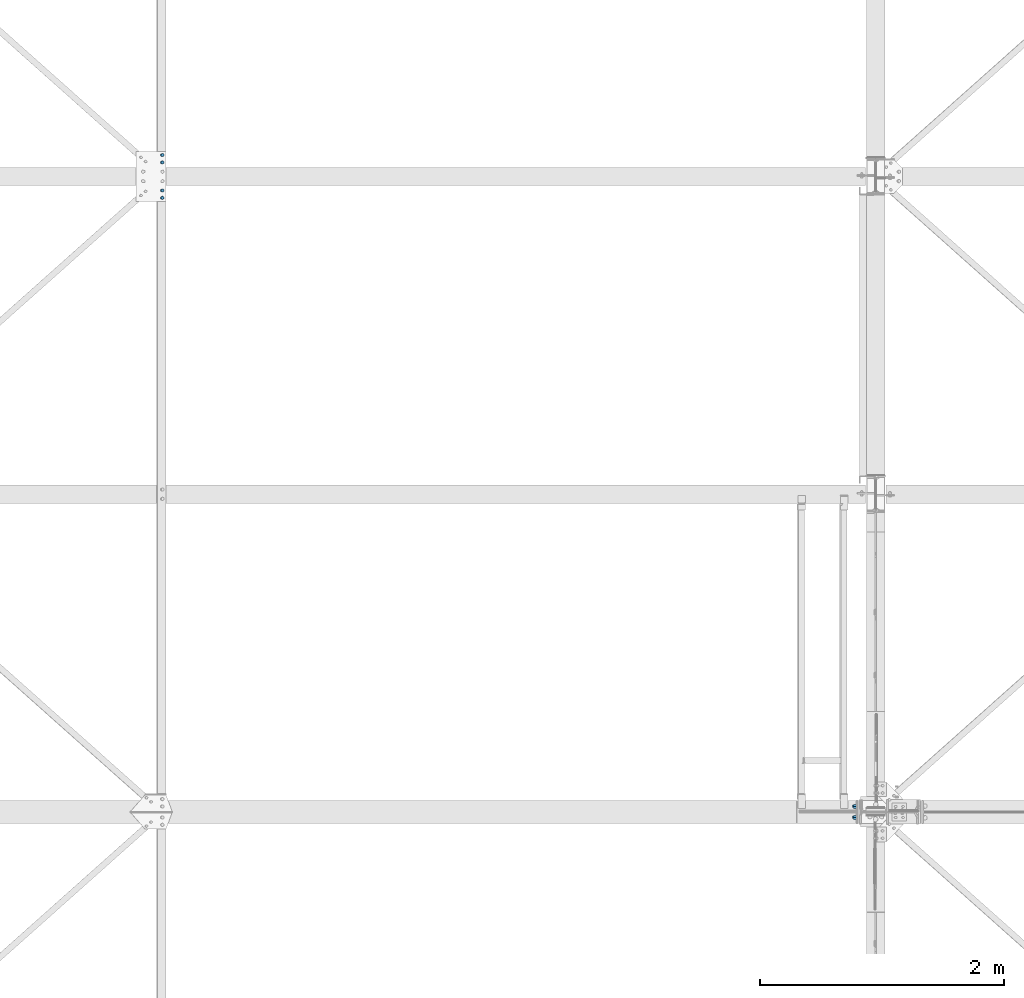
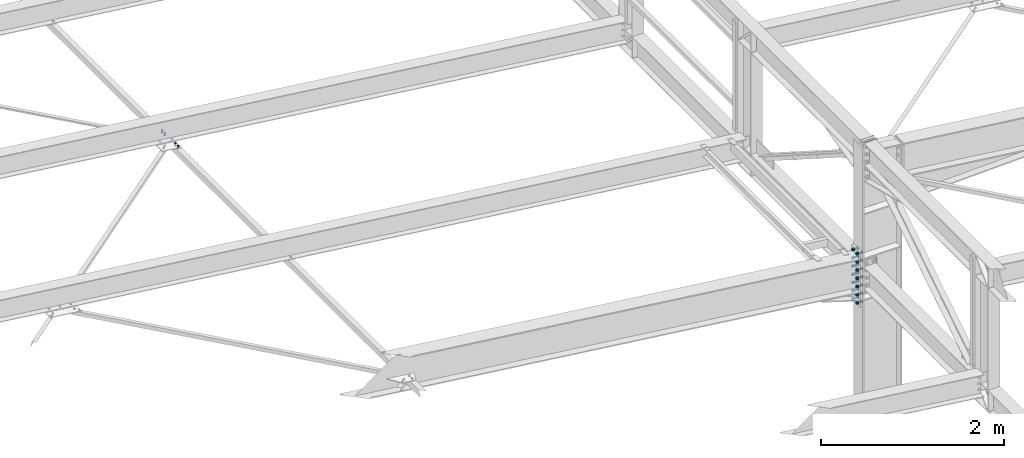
# One storey, part 260 of 3134: 3 mechanical fasteners, 2 elements without a shape of their own.
"""IFC2X3 building model written with IfcOpenShell, lengths in millimetres."""

from ifc_helpers import new_model, si_unit, frame, origin_with_axes, place, context, subcontext, project, spatial, faceted_brep, source, transform, mapped, material, type_object, element, aggregate, save


model = new_model("IFC2X3")

# Units and contexts
model_context = context("Model", 3, precision=1e-05, world=origin_with_axes())
body_context = subcontext(model_context, "Body", "Model", "MODEL_VIEW")
ifc_project = project(units=[si_unit("LENGTHUNIT", "METRE", prefix="MILLI"), si_unit("AREAUNIT", "SQUARE_METRE"), si_unit("VOLUMEUNIT", "CUBIC_METRE"), si_unit("MASSUNIT", "GRAM", prefix="KILO"), si_unit("TIMEUNIT", "SECOND"), si_unit("PLANEANGLEUNIT", "RADIAN"), si_unit("SOLIDANGLEUNIT", "STERADIAN"), si_unit("THERMODYNAMICTEMPERATUREUNIT", "DEGREE_CELSIUS"), si_unit("LUMINOUSINTENSITYUNIT", "LUMEN")], contexts=[model_context])

# Site, building, storey
site_placement = place(None, origin_with_axes())
site = spatial("IfcSite", under=ifc_project, at=site_placement, CompositionType="ELEMENT")
building_placement = place(site_placement, origin_with_axes())
building = spatial("IfcBuilding", under=site, at=building_placement, Name="Undefined", CompositionType="ELEMENT")
storey_placement = place(building_placement, origin_with_axes())
storey = spatial("IfcBuildingStorey", under=building, at=storey_placement, Name="Undefined", CompositionType="ELEMENT", Elevation=0.0)

# Assembly, mechanical fastener
assembly_1_placement = place(storey_placement, origin_with_axes())
assembly_1 = element("IfcElementAssembly", 1, at=assembly_1_placement, inside=storey, Name="IPE450", AssemblyPlace="NOTDEFINED", PredefinedType="RIGID_FRAME")
ifc_material_1 = material(Name="HR10.9")
mechanical_fastener_type = type_object("IfcMechanicalFastenerType", Name="Bolt assembly")
shared_shape_1 = source(origin_with_axes(), body_context, "Body", "Brep", [
    faceted_brep([(18.475208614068, -33.599999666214, 0.0), (9.23760430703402, -33.599999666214, 16.0), (-9.23760430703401, -33.599999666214, 16.0), (-18.475208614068, -33.599999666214, 2.2625605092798e-15), (-9.23760430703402, -33.599999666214, -16.0), (9.237604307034, -33.599999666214, -16.0), (9.237604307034, -19.7000000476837, -16.0), (-9.23760430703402, -19.7000000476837, -16.0), (-18.475208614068, -19.7000000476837, 2.2625605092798e-15), (-9.23760430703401, -19.7000000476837, 16.0), (9.23760430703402, -19.7000000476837, 16.0), (18.475208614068, -19.7000000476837, 0.0), (10.0, -19.7000000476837, 0.0), (8.66025403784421, -19.7000000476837, 5.0000000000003), (4.9999999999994, -19.7000000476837, 8.66025403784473), (-1.03633598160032e-12, -19.7000000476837, 10.0), (-5.00000000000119, -19.7000000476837, 8.6602540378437), (-8.66025403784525, -19.7000000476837, 4.99999999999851), (-10.0, -19.7000000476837, -2.07267196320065e-12), (-8.66025403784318, -19.7000000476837, -5.00000000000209), (-4.99999999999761, -19.7000000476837, -8.66025403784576), (3.09790571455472e-12, -19.7000000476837, -10.0), (5.00000000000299, -19.7000000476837, -8.66025403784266), (8.66025403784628, -19.7000000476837, -4.99999999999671), (8.66025403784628, 55.2999999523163, -4.99999999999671), (5.00000000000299, 55.2999999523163, -8.66025403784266), (3.09790571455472e-12, 55.2999999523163, -10.0), (-4.99999999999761, 55.2999999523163, -8.66025403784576), (-8.66025403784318, 55.2999999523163, -5.00000000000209), (-10.0, 55.2999999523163, -2.07267196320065e-12), (-8.66025403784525, 55.2999999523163, 4.99999999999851), (-5.00000000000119, 55.2999999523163, 8.6602540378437), (-1.03633598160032e-12, 55.2999999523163, 10.0), (4.9999999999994, 55.2999999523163, 8.66025403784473), (8.66025403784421, 55.2999999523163, 5.0000000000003), (10.0, 55.2999999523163, 0.0), (22.0, -19.7000000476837, 0.0), (19.0525588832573, -19.7000000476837, 11.0000000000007), (10.9999999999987, -19.7000000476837, 19.0525588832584), (-2.27993915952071e-12, -19.7000000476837, 22.0), (-11.0000000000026, -19.7000000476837, 19.0525588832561), (-19.0525588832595, -19.7000000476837, 10.9999999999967), (-22.0, -19.7000000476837, -4.55987831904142e-12), (-19.052558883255, -19.7000000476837, -11.0000000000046), (-10.9999999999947, -19.7000000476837, -19.0525588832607), (6.81539257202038e-12, -19.7000000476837, -22.0), (11.0000000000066, -19.7000000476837, -19.0525588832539), (19.0525588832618, -19.7000000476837, -10.9999999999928), (19.0525588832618, -16.0, -10.9999999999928), (11.0000000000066, -16.0, -19.0525588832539), (6.81539257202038e-12, -16.0, -22.0), (-10.9999999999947, -16.0, -19.0525588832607), (-19.052558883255, -16.0, -11.0000000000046), (-22.0, -16.0, -4.55987831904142e-12), (-19.0525588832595, -16.0, 10.9999999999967), (-11.0000000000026, -16.0, 19.0525588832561), (-2.27993915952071e-12, -16.0, 22.0), (10.9999999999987, -16.0, 19.0525588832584), (19.0525588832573, -16.0, 11.0000000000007), (22.0, -16.0, 0.0), (22.0, 25.0, 0.0), (19.0525588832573, 25.0, 11.0000000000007), (10.9999999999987, 25.0, 19.0525588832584), (-2.27993915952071e-12, 25.0, 22.0), (-11.0000000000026, 25.0, 19.0525588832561), (-19.0525588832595, 25.0, 10.9999999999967), (-22.0, 25.0, -4.55987831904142e-12), (-19.052558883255, 25.0, -11.0000000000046), (-10.9999999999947, 25.0, -19.0525588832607), (6.81539257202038e-12, 25.0, -22.0), (11.0000000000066, 25.0, -19.0525588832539), (19.0525588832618, 25.0, -10.9999999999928), (19.0525588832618, 28.7000000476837, -10.9999999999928), (11.0000000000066, 28.7000000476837, -19.0525588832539), (6.81539257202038e-12, 28.7000000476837, -22.0), (-10.9999999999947, 28.7000000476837, -19.0525588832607), (-19.052558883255, 28.7000000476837, -11.0000000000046), (-22.0, 28.7000000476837, -4.55987831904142e-12), (-19.0525588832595, 28.7000000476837, 10.9999999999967), (-11.0000000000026, 28.7000000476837, 19.0525588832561), (-2.27993915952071e-12, 28.7000000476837, 22.0), (10.9999999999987, 28.7000000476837, 19.0525588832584), (19.0525588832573, 28.7000000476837, 11.0000000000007), (22.0, 28.7000000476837, 0.0), (18.475208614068, 28.7000000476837, 0.0), (9.23760430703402, 28.7000000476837, 16.0), (-9.23760430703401, 28.7000000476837, 16.0), (-18.475208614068, 28.7000000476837, 2.2625605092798e-15), (-9.23760430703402, 28.7000000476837, -16.0), (9.237604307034, 28.7000000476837, -16.0), (9.237604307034, 47.2499992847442, -16.0), (-9.23760430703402, 47.2499992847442, -16.0), (-18.475208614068, 47.2499992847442, 2.2625605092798e-15), (-9.23760430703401, 47.2499992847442, 16.0), (9.23760430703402, 47.2499992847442, 16.0), (18.475208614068, 47.2499992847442, 0.0)], [[[0, 1, 2, 3, 4, 5]], [[6, 7, 8, 9, 10, 11]], [[0, 11, 10, 1]], [[1, 10, 9, 2]], [[2, 9, 8, 3]], [[3, 8, 7, 4]], [[4, 7, 6, 5]], [[5, 6, 11, 0]], [[12, 13, 14, 15, 16, 17, 18, 19, 20, 21, 22, 23]], [[24, 25, 26, 27, 28, 29, 30, 31, 32, 33, 34, 35]], [[12, 35, 34, 13]], [[13, 34, 33, 14]], [[14, 33, 32, 15]], [[15, 32, 31, 16]], [[16, 31, 30, 17]], [[17, 30, 29, 18]], [[18, 29, 28, 19]], [[19, 28, 27, 20]], [[20, 27, 26, 21]], [[21, 26, 25, 22]], [[22, 25, 24, 23]], [[23, 24, 35, 12]], [[36, 37, 38, 39, 40, 41, 42, 43, 44, 45, 46, 47]], [[48, 49, 50, 51, 52, 53, 54, 55, 56, 57, 58, 59]], [[36, 59, 58, 37]], [[37, 58, 57, 38]], [[38, 57, 56, 39]], [[39, 56, 55, 40]], [[40, 55, 54, 41]], [[41, 54, 53, 42]], [[42, 53, 52, 43]], [[43, 52, 51, 44]], [[44, 51, 50, 45]], [[45, 50, 49, 46]], [[46, 49, 48, 47]], [[47, 48, 59, 36]], [[60, 61, 62, 63, 64, 65, 66, 67, 68, 69, 70, 71]], [[72, 73, 74, 75, 76, 77, 78, 79, 80, 81, 82, 83]], [[60, 83, 82, 61]], [[61, 82, 81, 62]], [[62, 81, 80, 63]], [[63, 80, 79, 64]], [[64, 79, 78, 65]], [[65, 78, 77, 66]], [[66, 77, 76, 67]], [[67, 76, 75, 68]], [[68, 75, 74, 69]], [[69, 74, 73, 70]], [[70, 73, 72, 71]], [[71, 72, 83, 60]], [[84, 85, 86, 87, 88, 89]], [[90, 91, 92, 93, 94, 95]], [[84, 95, 94, 85]], [[85, 94, 93, 86]], [[86, 93, 92, 87]], [[87, 92, 91, 88]], [[88, 91, 90, 89]], [[89, 90, 95, 84]]]),
    faceted_brep([(11.0, -15.9, 0.0), (9.52627944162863, -15.9, 5.50000000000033), (5.49999999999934, -15.9, 9.5262794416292), (-1.13996957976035e-12, -15.9, 11.0), (-5.50000000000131, -15.9, 9.52627944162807), (-9.52627944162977, -15.9, 5.49999999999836), (-11.0, -15.9, -2.27993915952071e-12), (-9.5262794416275, -15.9, -5.5000000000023), (-5.49999999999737, -15.9, -9.52627944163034), (3.40769628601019e-12, -15.9, -11.0), (5.50000000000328, -15.9, -9.52627944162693), (9.52627944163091, -15.9, -5.49999999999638), (9.52627944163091, 0.0999999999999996, -5.49999999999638), (5.50000000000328, 0.0999999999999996, -9.52627944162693), (3.40769628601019e-12, 0.0999999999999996, -11.0), (-5.49999999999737, 0.0999999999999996, -9.52627944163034), (-9.5262794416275, 0.0999999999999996, -5.5000000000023), (-11.0, 0.0999999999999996, -2.27993915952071e-12), (-9.52627944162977, 0.0999999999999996, 5.49999999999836), (-5.50000000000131, 0.0999999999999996, 9.52627944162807), (-1.13996957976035e-12, 0.0999999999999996, 11.0), (5.49999999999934, 0.0999999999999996, 9.5262794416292), (9.52627944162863, 0.0999999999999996, 5.50000000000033), (11.0, 0.0999999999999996, 0.0), (11.0, -0.1, 0.0), (9.52627944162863, -0.1, 5.50000000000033), (5.49999999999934, -0.1, 9.5262794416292), (-1.13996957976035e-12, -0.1, 11.0), (-5.50000000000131, -0.1, 9.52627944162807), (-9.52627944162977, -0.1, 5.49999999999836), (-11.0, -0.1, -2.27993915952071e-12), (-9.5262794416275, -0.1, -5.5000000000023), (-5.49999999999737, -0.1, -9.52627944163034), (3.40769628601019e-12, -0.1, -11.0), (5.50000000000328, -0.1, -9.52627944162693), (9.52627944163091, -0.1, -5.49999999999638), (9.52627944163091, 25.0, -5.49999999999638), (5.50000000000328, 25.0, -9.52627944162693), (3.40769628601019e-12, 25.0, -11.0), (-5.49999999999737, 25.0, -9.52627944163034), (-9.5262794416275, 25.0, -5.5000000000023), (-11.0, 25.0, -2.27993915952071e-12), (-9.52627944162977, 25.0, 5.49999999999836), (-5.50000000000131, 25.0, 9.52627944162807), (-1.13996957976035e-12, 25.0, 11.0), (5.49999999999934, 25.0, 9.5262794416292), (9.52627944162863, 25.0, 5.50000000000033), (11.0, 25.0, 0.0)], [[[0, 1, 2, 3, 4, 5, 6, 7, 8, 9, 10, 11]], [[12, 13, 14, 15, 16, 17, 18, 19, 20, 21, 22, 23]], [[0, 23, 22, 1]], [[1, 22, 21, 2]], [[2, 21, 20, 3]], [[3, 20, 19, 4]], [[4, 19, 18, 5]], [[5, 18, 17, 6]], [[6, 17, 16, 7]], [[7, 16, 15, 8]], [[8, 15, 14, 9]], [[9, 14, 13, 10]], [[10, 13, 12, 11]], [[11, 12, 23, 0]], [[24, 25, 26, 27, 28, 29, 30, 31, 32, 33, 34, 35]], [[36, 37, 38, 39, 40, 41, 42, 43, 44, 45, 46, 47]], [[24, 47, 46, 25]], [[25, 46, 45, 26]], [[26, 45, 44, 27]], [[27, 44, 43, 28]], [[28, 43, 42, 29]], [[29, 42, 41, 30]], [[30, 41, 40, 31]], [[31, 40, 39, 32]], [[32, 39, 38, 33]], [[33, 38, 37, 34]], [[34, 37, 36, 35]], [[35, 36, 47, 24]]]),
])
mechanical_fastener_1_placement = place(assembly_1_placement, frame((55740.0, 40250.0, 4461.54211857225), z_axis=(0.0, 1.0, 0.0), x_axis=(0.0, 0.0, -1.0)))
mechanical_fastener_1 = element("IfcMechanicalFastener", 2, at=mechanical_fastener_1_placement, type_object=mechanical_fastener_type, material=ifc_material_1, Name="Bolt assembly", NominalDiameter=20.0, NominalLength=75.0, context=body_context, shape_type="MappedRepresentation", body=[
    mapped(shared_shape_1, transform((0.0, 0.0, -45.0))),
    mapped(shared_shape_1, transform((0.0, 0.0, 45.0))),
    mapped(shared_shape_1, transform((110.0, 0.0, -45.0))),
    mapped(shared_shape_1, transform((110.0, 0.0, 45.0))),
    mapped(shared_shape_1, transform((220.0, 0.0, -45.0))),
    mapped(shared_shape_1, transform((220.0, 0.0, 45.0))),
    mapped(shared_shape_1, transform((330.0, 0.0, -45.0))),
    mapped(shared_shape_1, transform((330.0, 0.0, 45.0))),
    mapped(shared_shape_1, transform((440.0, 0.0, -45.0))),
    mapped(shared_shape_1, transform((440.0, 0.0, 45.0))),
    mapped(shared_shape_1, transform((550.0, 0.0, -45.0))),
    mapped(shared_shape_1, transform((550.0, 0.0, 45.0))),
    mapped(shared_shape_1, transform((660.0, 0.0, -45.0))),
    mapped(shared_shape_1, transform((660.0, 0.0, 45.0))),
])
aggregate(assembly_1, [mechanical_fastener_1])

# Assembly, mechanical fasteners
assembly_2_placement = place(storey_placement, origin_with_axes())
assembly_2 = element("IfcElementAssembly", 3, at=assembly_2_placement, inside=storey, Name="PL8", AssemblyPlace="NOTDEFINED", PredefinedType="RIGID_FRAME")
ifc_material_2 = material(Name="8.8")
shared_shape_2 = source(origin_with_axes(), body_context, "Body", "Brep", [
    faceted_brep([(13.856406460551, -10.0, 0.0), (6.92820323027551, -10.0, 12.0), (-6.92820323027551, -10.0, 12.0), (-13.856406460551, -10.0, 1.69692038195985e-15), (-6.92820323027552, -10.0, -12.0), (6.9282032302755, -10.0, -12.0), (6.9282032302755, 0.0, -12.0), (-6.92820323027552, 0.0, -12.0), (-13.856406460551, 0.0, 1.69692038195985e-15), (-6.92820323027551, 0.0, 12.0), (6.92820323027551, 0.0, 12.0), (13.856406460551, 0.0, 0.0), (8.0, 0.0, 0.0), (6.92820323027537, 0.0, 4.00000000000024), (3.99999999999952, 0.0, 6.92820323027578), (-8.29068785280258e-13, 0.0, 8.0), (-4.00000000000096, 0.0, 6.92820323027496), (-6.9282032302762, 0.0, 3.99999999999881), (-8.0, 0.0, -1.65813757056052e-12), (-6.92820323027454, 0.0, -4.00000000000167), (-3.99999999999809, 0.0, -6.92820323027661), (2.47832457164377e-12, 0.0, -8.0), (4.00000000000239, 0.0, -6.92820323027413), (6.92820323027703, 0.0, -3.99999999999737), (6.92820323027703, 35.0000000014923, -3.99999999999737), (4.00000000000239, 35.0000000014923, -6.92820323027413), (2.47832457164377e-12, 35.0000000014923, -8.0), (-3.99999999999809, 35.0000000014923, -6.92820323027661), (-6.92820323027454, 35.0000000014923, -4.00000000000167), (-8.0, 35.0000000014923, -1.65813757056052e-12), (-6.9282032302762, 35.0000000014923, 3.99999999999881), (-4.00000000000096, 35.0000000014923, 6.92820323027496), (-8.29068785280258e-13, 35.0000000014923, 8.0), (3.99999999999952, 35.0000000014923, 6.92820323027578), (6.92820323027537, 35.0000000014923, 4.00000000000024), (8.0, 35.0000000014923, 0.0), (13.856406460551, 14.9990000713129, 0.0), (6.92820323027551, 14.9990000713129, 12.0), (-6.92820323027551, 14.9990000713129, 12.0), (-13.856406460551, 14.9990000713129, 1.69692038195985e-15), (-6.92820323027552, 14.9990000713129, -12.0), (6.9282032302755, 14.9990000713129, -12.0), (6.9282032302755, 27.9990000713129, -12.0), (-6.92820323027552, 27.9990000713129, -12.0), (-13.856406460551, 27.9990000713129, 1.69692038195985e-15), (-6.92820323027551, 27.9990000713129, 12.0), (6.92820323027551, 27.9990000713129, 12.0), (13.856406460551, 27.9990000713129, 0.0)], [[[0, 1, 2, 3, 4, 5]], [[6, 7, 8, 9, 10, 11]], [[0, 11, 10, 1]], [[1, 10, 9, 2]], [[2, 9, 8, 3]], [[3, 8, 7, 4]], [[4, 7, 6, 5]], [[5, 6, 11, 0]], [[12, 13, 14, 15, 16, 17, 18, 19, 20, 21, 22, 23]], [[24, 25, 26, 27, 28, 29, 30, 31, 32, 33, 34, 35]], [[12, 35, 34, 13]], [[13, 34, 33, 14]], [[14, 33, 32, 15]], [[15, 32, 31, 16]], [[16, 31, 30, 17]], [[17, 30, 29, 18]], [[18, 29, 28, 19]], [[19, 28, 27, 20]], [[20, 27, 26, 21]], [[21, 26, 25, 22]], [[22, 25, 24, 23]], [[23, 24, 35, 12]], [[36, 37, 38, 39, 40, 41]], [[42, 43, 44, 45, 46, 47]], [[36, 47, 46, 37]], [[37, 46, 45, 38]], [[38, 45, 44, 39]], [[39, 44, 43, 40]], [[40, 43, 42, 41]], [[41, 42, 47, 36]]]),
    faceted_brep([(9.0, 7.89900007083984, 0.0), (7.79422863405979, 7.89900007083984, 4.50000000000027), (4.49999999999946, 7.89900007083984, 7.79422863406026), (-9.3270238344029e-13, 7.89900007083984, 9.0), (-4.50000000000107, 7.89900007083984, 7.79422863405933), (-7.79422863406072, 7.89900007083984, 4.49999999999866), (-9.0, 7.89900007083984, -1.86540476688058e-12), (-7.79422863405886, 7.89900007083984, -4.50000000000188), (-4.49999999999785, 7.89900007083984, -7.79422863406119), (2.78811514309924e-12, 7.89900007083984, -9.0), (4.50000000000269, 7.89900007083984, -7.7942286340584), (7.79422863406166, 7.89900007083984, -4.49999999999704), (7.79422863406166, 14.9990000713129, -4.49999999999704), (4.50000000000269, 14.9990000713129, -7.7942286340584), (2.78811514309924e-12, 14.9990000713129, -9.0), (-4.49999999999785, 14.9990000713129, -7.79422863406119), (-7.79422863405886, 14.9990000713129, -4.50000000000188), (-9.0, 14.9990000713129, -1.86540476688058e-12), (-7.79422863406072, 14.9990000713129, 4.49999999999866), (-4.50000000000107, 14.9990000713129, 7.79422863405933), (-9.3270238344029e-13, 14.9990000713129, 9.0), (4.49999999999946, 14.9990000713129, 7.79422863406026), (7.79422863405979, 14.9990000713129, 4.50000000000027), (9.0, 14.9990000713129, 0.0), (9.0, 0.100000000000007, 0.0), (7.79422863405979, 0.100000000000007, 4.50000000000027), (4.49999999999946, 0.100000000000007, 7.79422863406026), (-9.3270238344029e-13, 0.100000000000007, 9.0), (-4.50000000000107, 0.100000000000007, 7.79422863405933), (-7.79422863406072, 0.100000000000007, 4.49999999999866), (-9.0, 0.100000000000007, -1.86540476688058e-12), (-7.79422863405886, 0.100000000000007, -4.50000000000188), (-4.49999999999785, 0.100000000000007, -7.79422863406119), (2.78811514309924e-12, 0.100000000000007, -9.0), (4.50000000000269, 0.100000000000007, -7.7942286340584), (7.79422863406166, 0.100000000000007, -4.49999999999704), (7.79422863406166, 8.1, -4.49999999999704), (4.50000000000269, 8.1, -7.7942286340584), (2.78811514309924e-12, 8.1, -9.0), (-4.49999999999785, 8.1, -7.79422863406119), (-7.79422863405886, 8.1, -4.50000000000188), (-9.0, 8.1, -1.86540476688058e-12), (-7.79422863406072, 8.1, 4.49999999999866), (-4.50000000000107, 8.1, 7.79422863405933), (-9.3270238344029e-13, 8.1, 9.0), (4.49999999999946, 8.1, 7.79422863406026), (7.79422863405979, 8.1, 4.50000000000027), (9.0, 8.1, 0.0)], [[[0, 1, 2, 3, 4, 5, 6, 7, 8, 9, 10, 11]], [[12, 13, 14, 15, 16, 17, 18, 19, 20, 21, 22, 23]], [[0, 23, 22, 1]], [[1, 22, 21, 2]], [[2, 21, 20, 3]], [[3, 20, 19, 4]], [[4, 19, 18, 5]], [[5, 18, 17, 6]], [[6, 17, 16, 7]], [[7, 16, 15, 8]], [[8, 15, 14, 9]], [[9, 14, 13, 10]], [[10, 13, 12, 11]], [[11, 12, 23, 0]], [[24, 25, 26, 27, 28, 29, 30, 31, 32, 33, 34, 35]], [[36, 37, 38, 39, 40, 41, 42, 43, 44, 45, 46, 47]], [[24, 47, 46, 25]], [[25, 46, 45, 26]], [[26, 45, 44, 27]], [[27, 44, 43, 28]], [[28, 43, 42, 29]], [[29, 42, 41, 30]], [[30, 41, 40, 31]], [[31, 40, 39, 32]], [[32, 39, 38, 33]], [[33, 38, 37, 34]], [[34, 37, 36, 35]], [[35, 36, 47, 24]]]),
])
mechanical_fastener_2_placement = place(assembly_2_placement, frame((50037.9849612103, 45335.0, 4806.73358922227), z_axis=(0.992623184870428, 0.0, -0.121240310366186), x_axis=(0.0, -1.0, 0.0)))
mechanical_fastener_2 = element("IfcMechanicalFastener", 4, at=mechanical_fastener_2_placement, type_object=mechanical_fastener_type, material=ifc_material_2, Name="Bolt assembly", NominalDiameter=16.0, NominalLength=35.0, context=body_context, shape_type="MappedRepresentation", body=[
    mapped(shared_shape_2, transform((0.0, 0.0, 0.0))),
    mapped(shared_shape_2, transform((59.9999999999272, 0.0, 5.40239852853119e-10))),
])
shared_shape_3 = source(origin_with_axes(), body_context, "Body", "Brep", [
    faceted_brep([(13.856406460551, -10.0, 0.0), (6.92820323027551, -10.0, 12.0), (-6.92820323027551, -10.0, 12.0), (-13.856406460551, -10.0, 1.69692038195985e-15), (-6.92820323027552, -10.0, -12.0), (6.9282032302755, -10.0, -12.0), (6.9282032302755, 0.0, -12.0), (-6.92820323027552, 0.0, -12.0), (-13.856406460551, 0.0, 1.69692038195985e-15), (-6.92820323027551, 0.0, 12.0), (6.92820323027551, 0.0, 12.0), (13.856406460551, 0.0, 0.0), (8.0, 0.0, 0.0), (6.92820323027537, 0.0, 4.00000000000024), (3.99999999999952, 0.0, 6.92820323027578), (-8.29068785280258e-13, 0.0, 8.0), (-4.00000000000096, 0.0, 6.92820323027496), (-6.9282032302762, 0.0, 3.99999999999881), (-8.0, 0.0, -1.65813757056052e-12), (-6.92820323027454, 0.0, -4.00000000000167), (-3.99999999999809, 0.0, -6.92820323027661), (2.47832457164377e-12, 0.0, -8.0), (4.00000000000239, 0.0, -6.92820323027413), (6.92820323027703, 0.0, -3.99999999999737), (6.92820323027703, 35.0000000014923, -3.99999999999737), (4.00000000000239, 35.0000000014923, -6.92820323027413), (2.47832457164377e-12, 35.0000000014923, -8.0), (-3.99999999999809, 35.0000000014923, -6.92820323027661), (-6.92820323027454, 35.0000000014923, -4.00000000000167), (-8.0, 35.0000000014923, -1.65813757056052e-12), (-6.9282032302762, 35.0000000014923, 3.99999999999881), (-4.00000000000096, 35.0000000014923, 6.92820323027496), (-8.29068785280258e-13, 35.0000000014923, 8.0), (3.99999999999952, 35.0000000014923, 6.92820323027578), (6.92820323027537, 35.0000000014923, 4.00000000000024), (8.0, 35.0000000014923, 0.0), (13.856406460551, 14.9999995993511, 0.0), (6.92820323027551, 14.9999995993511, 12.0), (-6.92820323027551, 14.9999995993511, 12.0), (-13.856406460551, 14.9999995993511, 1.69692038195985e-15), (-6.92820323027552, 14.9999995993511, -12.0), (6.9282032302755, 14.9999995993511, -12.0), (6.9282032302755, 27.9999995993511, -12.0), (-6.92820323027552, 27.9999995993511, -12.0), (-13.856406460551, 27.9999995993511, 1.69692038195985e-15), (-6.92820323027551, 27.9999995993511, 12.0), (6.92820323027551, 27.9999995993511, 12.0), (13.856406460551, 27.9999995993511, 0.0)], [[[0, 1, 2, 3, 4, 5]], [[6, 7, 8, 9, 10, 11]], [[0, 11, 10, 1]], [[1, 10, 9, 2]], [[2, 9, 8, 3]], [[3, 8, 7, 4]], [[4, 7, 6, 5]], [[5, 6, 11, 0]], [[12, 13, 14, 15, 16, 17, 18, 19, 20, 21, 22, 23]], [[24, 25, 26, 27, 28, 29, 30, 31, 32, 33, 34, 35]], [[12, 35, 34, 13]], [[13, 34, 33, 14]], [[14, 33, 32, 15]], [[15, 32, 31, 16]], [[16, 31, 30, 17]], [[17, 30, 29, 18]], [[18, 29, 28, 19]], [[19, 28, 27, 20]], [[20, 27, 26, 21]], [[21, 26, 25, 22]], [[22, 25, 24, 23]], [[23, 24, 35, 12]], [[36, 37, 38, 39, 40, 41]], [[42, 43, 44, 45, 46, 47]], [[36, 47, 46, 37]], [[37, 46, 45, 38]], [[38, 45, 44, 39]], [[39, 44, 43, 40]], [[40, 43, 42, 41]], [[41, 42, 47, 36]]]),
    faceted_brep([(9.0, 7.9, 0.0), (7.79422863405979, 7.9, 4.50000000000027), (4.49999999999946, 7.9, 7.79422863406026), (-9.3270238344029e-13, 7.9, 9.0), (-4.50000000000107, 7.9, 7.79422863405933), (-7.79422863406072, 7.9, 4.49999999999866), (-9.0, 7.9, -1.86540476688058e-12), (-7.79422863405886, 7.9, -4.50000000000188), (-4.49999999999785, 7.9, -7.79422863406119), (2.78811514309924e-12, 7.9, -9.0), (4.50000000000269, 7.9, -7.7942286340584), (7.79422863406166, 7.9, -4.49999999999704), (7.79422863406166, 14.9999995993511, -4.49999999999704), (4.50000000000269, 14.9999995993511, -7.7942286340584), (2.78811514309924e-12, 14.9999995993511, -9.0), (-4.49999999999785, 14.9999995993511, -7.79422863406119), (-7.79422863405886, 14.9999995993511, -4.50000000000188), (-9.0, 14.9999995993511, -1.86540476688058e-12), (-7.79422863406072, 14.9999995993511, 4.49999999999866), (-4.50000000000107, 14.9999995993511, 7.79422863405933), (-9.3270238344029e-13, 14.9999995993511, 9.0), (4.49999999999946, 14.9999995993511, 7.79422863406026), (7.79422863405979, 14.9999995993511, 4.50000000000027), (9.0, 14.9999995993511, 0.0), (9.0, 0.100000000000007, 0.0), (7.79422863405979, 0.100000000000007, 4.50000000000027), (4.49999999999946, 0.100000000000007, 7.79422863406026), (-9.3270238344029e-13, 0.100000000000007, 9.0), (-4.50000000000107, 0.100000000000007, 7.79422863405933), (-7.79422863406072, 0.100000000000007, 4.49999999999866), (-9.0, 0.100000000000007, -1.86540476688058e-12), (-7.79422863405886, 0.100000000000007, -4.50000000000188), (-4.49999999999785, 0.100000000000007, -7.79422863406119), (2.78811514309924e-12, 0.100000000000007, -9.0), (4.50000000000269, 0.100000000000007, -7.7942286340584), (7.79422863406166, 0.100000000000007, -4.49999999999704), (7.79422863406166, 8.1, -4.49999999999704), (4.50000000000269, 8.1, -7.7942286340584), (2.78811514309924e-12, 8.1, -9.0), (-4.49999999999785, 8.1, -7.79422863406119), (-7.79422863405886, 8.1, -4.50000000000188), (-9.0, 8.1, -1.86540476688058e-12), (-7.79422863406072, 8.1, 4.49999999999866), (-4.50000000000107, 8.1, 7.79422863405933), (-9.3270238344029e-13, 8.1, 9.0), (4.49999999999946, 8.1, 7.79422863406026), (7.79422863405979, 8.1, 4.50000000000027), (9.0, 8.1, 0.0)], [[[0, 1, 2, 3, 4, 5, 6, 7, 8, 9, 10, 11]], [[12, 13, 14, 15, 16, 17, 18, 19, 20, 21, 22, 23]], [[0, 23, 22, 1]], [[1, 22, 21, 2]], [[2, 21, 20, 3]], [[3, 20, 19, 4]], [[4, 19, 18, 5]], [[5, 18, 17, 6]], [[6, 17, 16, 7]], [[7, 16, 15, 8]], [[8, 15, 14, 9]], [[9, 14, 13, 10]], [[10, 13, 12, 11]], [[11, 12, 23, 0]], [[24, 25, 26, 27, 28, 29, 30, 31, 32, 33, 34, 35]], [[36, 37, 38, 39, 40, 41, 42, 43, 44, 45, 46, 47]], [[24, 47, 46, 25]], [[25, 46, 45, 26]], [[26, 45, 44, 27]], [[27, 44, 43, 28]], [[28, 43, 42, 29]], [[29, 42, 41, 30]], [[30, 41, 40, 31]], [[31, 40, 39, 32]], [[32, 39, 38, 33]], [[33, 38, 37, 34]], [[34, 37, 36, 35]], [[35, 36, 47, 24]]]),
])
mechanical_fastener_3_placement = place(assembly_2_placement, frame((50037.9849612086, 45625.0, 4806.73358922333), z_axis=(0.992623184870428, 0.0, -0.121240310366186), x_axis=(0.0, -1.0, 0.0)))
mechanical_fastener_3 = element("IfcMechanicalFastener", 5, at=mechanical_fastener_3_placement, type_object=mechanical_fastener_type, material=ifc_material_2, Name="Bolt assembly", NominalDiameter=16.0, NominalLength=35.0, context=body_context, shape_type="MappedRepresentation", body=[
    mapped(shared_shape_3, transform((0.0, 0.0, 0.0))),
    mapped(shared_shape_3, transform((59.9999999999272, 0.0, 5.40239852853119e-10))),
])
aggregate(assembly_2, [mechanical_fastener_3, mechanical_fastener_2])

save(model, "model.ifc")
